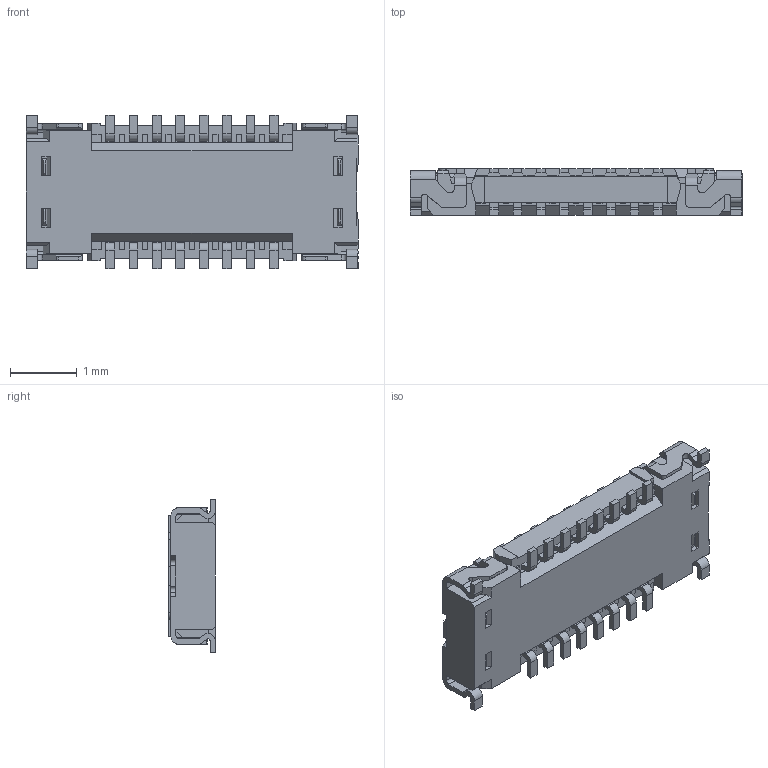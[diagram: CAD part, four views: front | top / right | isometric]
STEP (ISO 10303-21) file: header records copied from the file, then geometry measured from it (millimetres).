
FILE_DESCRIPTION (( 'STEP AP203' ), '1' );
FILE_NAME ('20708-016E-01C+20709-016E-01C MATING STEP R1R1.STEP', '2025-02-18T07:48:54', ( '' ), ( '' ), 'SwSTEP 2.0', 'SolidWorks 2023', '' );
FILE_SCHEMA (( 'CONFIG_CONTROL_DESIGN' ));
Length unit declared in the file: millimetre
Products named in the file (3): 20708-016E-01C PLUG ASSY STEP R1 ALL_16P; 20708-016E-01C+20709-016E-01C MATING STEP R1R1; 20709-016E-01C RECEPTACLE ASSY STEP R1 ALL_16P
Assembly tree (2 placements, depth 2):
  20708-016E-01C+20709-016E-01C MATING STEP R1R1
    20708-016E-01C PLUG ASSY STEP R1 ALL_16P
    20709-016E-01C RECEPTACLE ASSY STEP R1 ALL_16P
Bounding box: 4.97 x 0.7 x 2.3 mm (x, y, z)
Volume: 5.6 mm3; surface area: 65 mm2
Topology: 2 solids, 2 shells, 882 faces, 2494 edges, 1622 vertices
Faces by surface type: plane 720, cylinder 150, sphere 8, bspline 4
Entity records: 28427 total; most frequent: CARTESIAN_POINT 5207, ORIENTED_EDGE 4972, DIRECTION 4488, EDGE_CURVE 2486, VECTOR 2162, LINE 2162, VERTEX_POINT 1622, AXIS2_PLACEMENT_3D 1163
